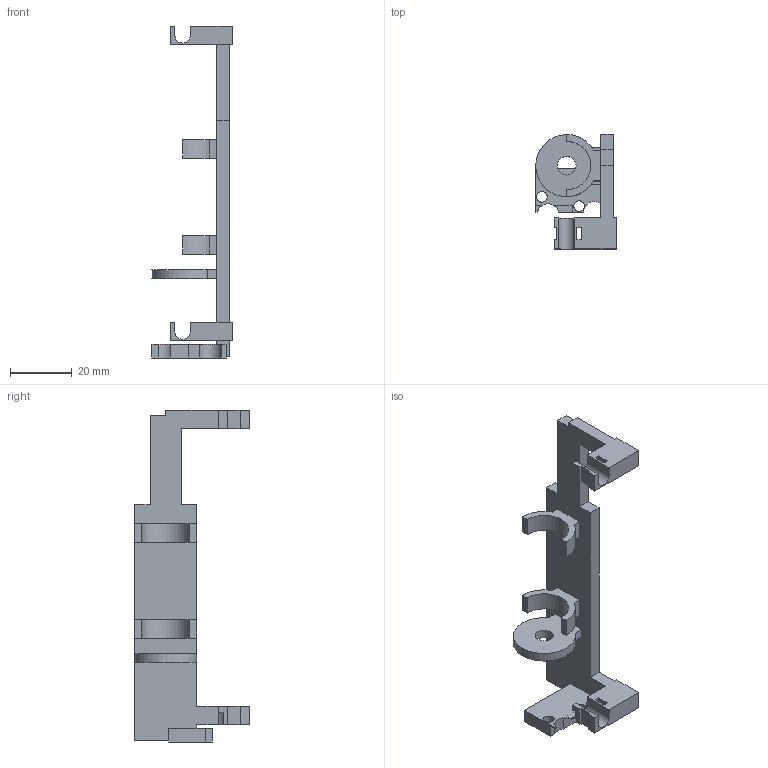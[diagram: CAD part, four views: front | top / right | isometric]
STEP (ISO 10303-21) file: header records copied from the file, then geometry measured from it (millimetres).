
FILE_DESCRIPTION(('Open CASCADE Model'),'2;1');
FILE_NAME('Open CASCADE Shape Model','2026-10-05T13:24:21',('Author'),( 'Open CASCADE'),'Open CASCADE STEP processor 7.8','Open CASCADE 7.8' ,'Unknown');
FILE_SCHEMA(('AUTOMOTIVE_DESIGN { 1 0 10303 214 1 1 1 1 }'));
Length unit declared in the file: millimetre
Products named in the file (1): Open CASCADE STEP translator 7.8 23
Bounding box: 26 x 37 x 107.13 mm (x, y, z)
Volume: 12391.8 mm3; surface area: 9269.2 mm2
Topology: 1 solids, 1 shells, 103 faces, 288 edges, 192 vertices
Faces by surface type: plane 88, cylinder 15
Full cylindrical faces by diameter (mm): 3.4 x2, 6 x1
Entity records: 6933 total; most frequent: CARTESIAN_POINT 1446, DIRECTION 913, LINE 628, VECTOR 628, ORIENTED_EDGE 576, PCURVE 576, DEFINITIONAL_REPRESENTATION 576, EDGE_CURVE 288
